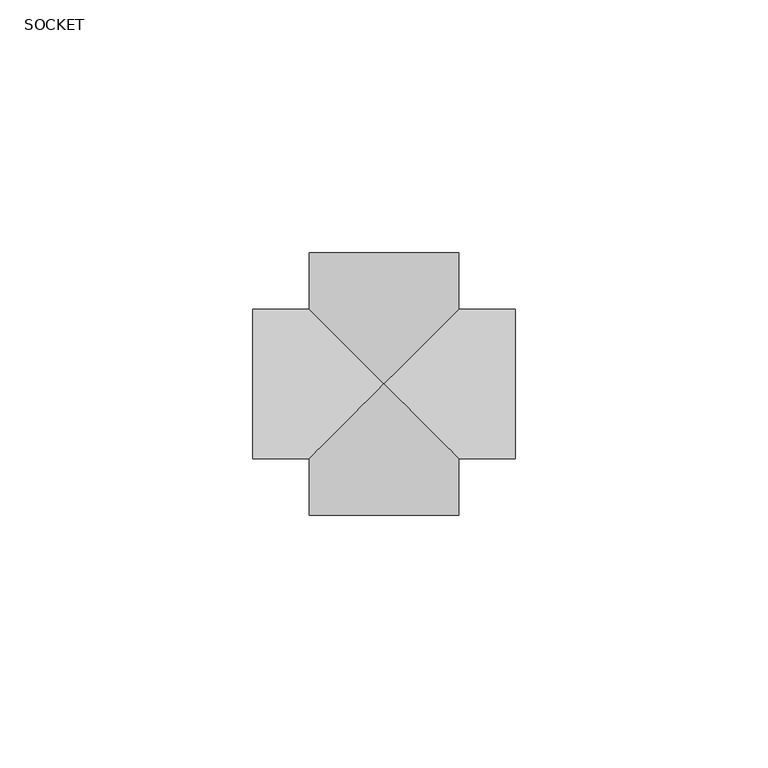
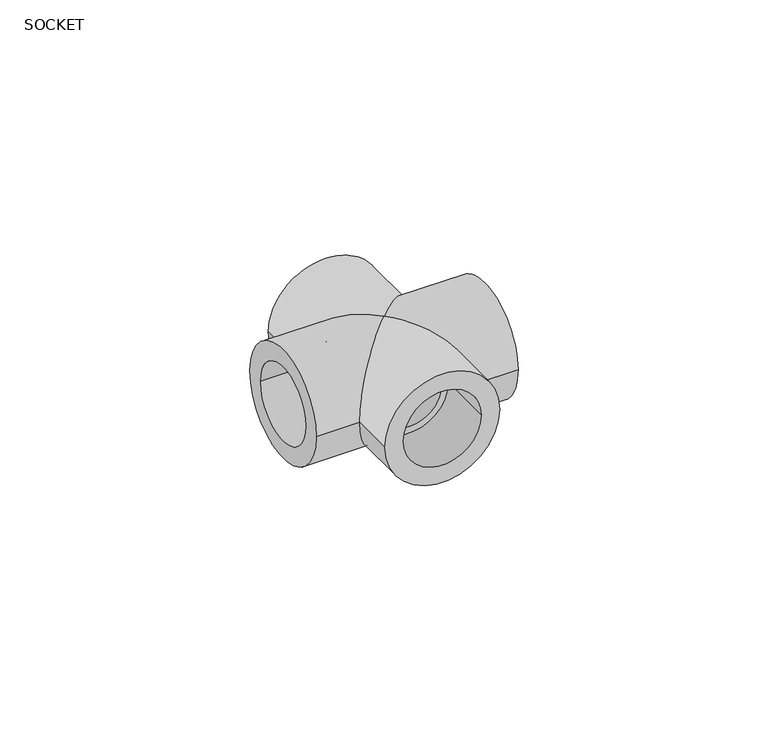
"""IFC4 building model written with IfcOpenShell, lengths in millimetres: pipe fitting geometry, Aquatherm - Cross Socket : SOCKET."""

import ifcopenshell
import ifcopenshell.guid

model = None  # the IFC model being written
_history = None  # IfcOwnerHistory: only IFC2X3 demands one
_inside = {}  # id of a spatial element -> (the spatial element, [elements in it])
_under = {}  # id of a project, library or spatial element -> (it, [spatial elements below it])
_declared = {}  # id of a project -> (the project, [libraries it declares])
_typed = {}  # id of a type object -> (the type object, [elements of that type])
_made_of = {}  # id of a material, layer set ... -> (it, [elements and type objects made of it])


def new_model(schema):
    """Start an empty IFC model of exactly this schema.

    Asked for "IFC4X3", IfcOpenShell would pick the latest addendum, in which some entities
    have other attributes; the version numbers below select the first issue.
    IFC2X3 requires an IfcOwnerHistory on every rooted entity: one is made here for all.
    """
    global model, _history
    if schema == "IFC4X3":
        model = ifcopenshell.file(schema_version=(4, 3, 0, 0))
    else:
        model = ifcopenshell.file(schema=schema)
    _inside.clear()
    _under.clear()
    _declared.clear()
    _typed.clear()
    _made_of.clear()
    _history = None
    if model.schema == "IFC2X3":
        org = make("IfcOrganization", Name="unknown")
        user = make(
            "IfcPersonAndOrganization",
            ThePerson=make("IfcPerson", FamilyName="unknown"),
            TheOrganization=org,
        )
        app = make(
            "IfcApplication",
            ApplicationDeveloper=org,
            Version="unknown",
            ApplicationFullName="unknown",
            ApplicationIdentifier="unknown",
        )
        _history = make(
            "IfcOwnerHistory",
            OwningUser=user,
            OwningApplication=app,
            ChangeAction="ADDED",
            CreationDate=0,
        )
    return model


def make(cls, **values):
    """One entity of the class cls with the attributes given. An attribute that is None is left unset."""
    return model.create_entity(
        cls, **{name: value for name, value in values.items() if value is not None}
    )


def rooted(cls, **values):
    """An entity with a GlobalId (a new one), such as an element, a storey or a relation."""
    return make(cls, GlobalId=ifcopenshell.guid.new(), OwnerHistory=_history, **values)


def si_unit(unit_type, name, prefix=None):
    """IfcSIUnit, for example si_unit("LENGTHUNIT", "METRE", prefix="MILLI")."""
    return make("IfcSIUnit", UnitType=unit_type, Prefix=prefix, Name=name)


def assignment(units):
    """IfcUnitAssignment: the units of a project."""
    return None if units is None else make("IfcUnitAssignment", Units=units)


def point(xyz):
    """IfcCartesianPoint."""
    return None if xyz is None else make("IfcCartesianPoint", Coordinates=xyz)


def direction(xyz):
    """IfcDirection."""
    return None if xyz is None else make("IfcDirection", DirectionRatios=xyz)


def frame(location, z_axis=None, x_axis=None):
    """IfcAxis2Placement3D, a coordinate frame: its origin and axes. An axis left out is left unset."""
    return make(
        "IfcAxis2Placement3D",
        Location=point(location),
        Axis=direction(z_axis),
        RefDirection=direction(x_axis),
    )


def origin():
    """The frame at (0, 0, 0) with its axes left unset."""
    return frame((0.0, 0.0, 0.0))


def place(relative_to, where):
    """IfcLocalPlacement: puts the frame where relative to a parent placement (None: the world)."""
    return make(
        "IfcLocalPlacement", PlacementRelTo=relative_to, RelativePlacement=where
    )


def context(
    kind, dimensions, precision=None, world=None, true_north=None, identifier=None
):
    """IfcGeometricRepresentationContext, for example the 3D "Model" context."""
    return make(
        "IfcGeometricRepresentationContext",
        ContextIdentifier=identifier,
        ContextType=kind,
        CoordinateSpaceDimension=dimensions,
        Precision=precision,
        WorldCoordinateSystem=world,
        TrueNorth=true_north,
    )


def project(units=None, contexts=None):
    """IfcProject with its units and contexts."""
    return rooted(
        "IfcProject",
        Name="project",
        RepresentationContexts=contexts,
        UnitsInContext=assignment(units),
    )


def spatial(cls, under=None, at=None, **own):
    """A site, building, storey or space (cls), placed at a placement, below another one or the project."""
    s = rooted(cls, ObjectPlacement=at, **own)
    if under is not None:
        _under.setdefault(under.id(), (under, []))[1].append(s)
    return s


def polyline(points):
    """IfcPolyline through the points."""
    return make("IfcPolyline", Points=[point(p) for p in points])


def circle_curve(where, radius):
    """IfcCircle in the frame where."""
    return make("IfcCircle", Position=where, Radius=radius)


def ellipse_curve(where, semi_axis1, semi_axis2):
    """IfcEllipse in the frame where."""
    return make(
        "IfcEllipse", Position=where, SemiAxis1=semi_axis1, SemiAxis2=semi_axis2
    )


def shape(context_of_items, identifier, shape_type, items):
    """IfcShapeRepresentation: the items that make up one representation, for example the "Body"."""
    return make(
        "IfcShapeRepresentation",
        ContextOfItems=context_of_items,
        RepresentationIdentifier=identifier,
        RepresentationType=shape_type,
        Items=items,
    )


def source(mapping_origin, context_of_items, identifier, shape_type, items):
    """IfcRepresentationMap: a shape defined once, which mapped items show again and again."""
    return make(
        "IfcRepresentationMap",
        MappingOrigin=mapping_origin,
        MappedRepresentation=shape(context_of_items, identifier, shape_type, items),
    )


def transform(
    local_origin,
    x_axis=None,
    y_axis=None,
    z_axis=None,
    scale=None,
    scale2=None,
    scale3=None,
    uniform=True,
):
    """IfcCartesianTransformationOperator3D, or its non-uniform kind. x_axis, y_axis, z_axis: its Axis1, 2, 3."""
    if uniform:
        return make(
            "IfcCartesianTransformationOperator3D",
            Axis1=direction(x_axis),
            Axis2=direction(y_axis),
            LocalOrigin=point(local_origin),
            Scale=scale,
            Axis3=direction(z_axis),
        )
    return make(
        "IfcCartesianTransformationOperator3DnonUniform",
        Axis1=direction(x_axis),
        Axis2=direction(y_axis),
        LocalOrigin=point(local_origin),
        Scale=scale,
        Axis3=direction(z_axis),
        Scale2=scale2,
        Scale3=scale3,
    )


def mapped(mapping_source, mapping_target):
    """IfcMappedItem: shows the shape of a source again, moved by a transform."""
    return make(
        "IfcMappedItem", MappingSource=mapping_source, MappingTarget=mapping_target
    )


def made_of(thing, what):
    """Note that an element or type object is made of a material, layer set ...; save() writes the relation."""
    if what is not None:
        _made_of.setdefault(what.id(), (what, []))[1].append(thing)
    return thing


def element(
    cls,
    number,
    at=None,
    inside=None,
    cuts=None,
    type_object=None,
    material=None,
    context=None,
    identifier="Body",
    shape_type=None,
    held_by="IfcProductDefinitionShape",
    body=None,
    shapes=None,
    **own,
):
    """One element of the class cls, such as IfcWall. Its Tag is "e" and its number.

    at: its placement. inside: the storey or other place that contains it. cuts: it is an
    opening in that element (IfcRelVoidsElement). A single representation is given by context,
    identifier, shape_type and body (its items); several are given by shapes. held_by: the class
    of the entity that holds the representations. save() writes the other relations.
    """
    e = rooted(cls, Tag="e%d" % number, ObjectPlacement=at, **own)
    if body is not None:
        shapes = [shape(context, identifier, shape_type, body)]
    if shapes is not None:
        e.Representation = make(held_by, Representations=shapes)
    if inside is not None:
        _inside.setdefault(inside.id(), (inside, []))[1].append(e)
    if cuts is not None:
        rooted(
            "IfcRelVoidsElement", RelatingBuildingElement=cuts, RelatedOpeningElement=e
        )
    if type_object is not None:
        _typed.setdefault(type_object.id(), (type_object, []))[1].append(e)
    return made_of(e, material)


def aggregate(whole, parts):
    """IfcRelAggregates: a whole, such as a stair, and the parts it consists of."""
    return rooted("IfcRelAggregates", RelatingObject=whole, RelatedObjects=parts)


def save(model, path):
    """Write the relations noted so far, then the file.

    IfcRelAggregates (storeys below a building ...), IfcRelContainedInSpatialStructure (elements
    in a storey), IfcRelDefinesByType, IfcRelAssociatesMaterial and IfcRelDeclares: one each for
    every whole, place, type object, material and project.
    """
    for whole, parts in _under.values():
        aggregate(whole, parts)
    for where, things in _inside.values():
        rooted(
            "IfcRelContainedInSpatialStructure",
            RelatedElements=things,
            RelatingStructure=where,
        )
    for kind, things in _typed.values():
        rooted("IfcRelDefinesByType", RelatedObjects=things, RelatingType=kind)
    for what, things in _made_of.values():
        rooted("IfcRelAssociatesMaterial", RelatedObjects=things, RelatingMaterial=what)
    for by, libraries in _declared.values():
        rooted("IfcRelDeclares", RelatingContext=by, RelatedDefinitions=libraries)
    model.write(path)


def plane_surface(at):
    """IfcPlane: the flat surface through the origin of the frame at, square to its z axis."""
    return make("IfcPlane", Position=at)


def cylinder_surface(at, radius):
    """IfcCylindricalSurface: all points at the distance radius from the z axis of the frame at."""
    return make("IfcCylindricalSurface", Position=at, Radius=radius)


def revolved_surface(curve, axis_point, axis_direction):
    """IfcSurfaceOfRevolution: the curve turned about the line through axis_point along axis_direction."""
    return make(
        "IfcSurfaceOfRevolution",
        SweptCurve=make("IfcArbitraryOpenProfileDef", ProfileType="CURVE", Curve=curve),
        AxisPosition=make("IfcAxis1Placement", Location=point(axis_point), Axis=direction(axis_direction)),
    )


def advanced_brep(points, edges, surfaces, faces):
    """IfcAdvancedBrep: a solid bounded by faces that lie on surfaces and meet in shared edges.

    An edge is (start, end): straight between two places in points (the first is 0);
    or (start, end, curve); or (start, end, curve, False) where it runs against its curve.
    A face is (place in surfaces, loops), or (place, loops, False) where it looks against
    its surface's normal. A loop lists edges by number (the first is 1), with a minus sign
    where the edge is run from its end to its start. The first loop is the outer one.
    """
    corners = [point(p) for p in points]
    vertices = [make("IfcVertexPoint", VertexGeometry=c) for c in corners]
    made = []
    for start, end, *more in edges:
        made.append(
            make(
                "IfcEdgeCurve",
                EdgeStart=vertices[start],
                EdgeEnd=vertices[end],
                EdgeGeometry=more[0] if more else make("IfcPolyline", Points=[corners[start], corners[end]]),
                SameSense=more[1] if len(more) > 1 else True,
            )
        )
    hull = []
    for where, loops, *sense in faces:
        bounds = []
        for j, loop in enumerate(loops):
            ring = [make("IfcOrientedEdge", EdgeElement=made[abs(k) - 1], Orientation=k > 0) for k in loop]
            bounds.append(
                make(
                    "IfcFaceOuterBound" if j == 0 else "IfcFaceBound",
                    Bound=make("IfcEdgeLoop", EdgeList=ring),
                    Orientation=True,
                )
            )
        hull.append(make("IfcAdvancedFace", Bounds=bounds, FaceSurface=surfaces[where], SameSense=sense[0] if sense else True))
    return make("IfcAdvancedBrep", Outer=make("IfcClosedShell", CfsFaces=hull))


def socket_ba2b1480(model_context):
    return source(origin(), model_context, "Body", "AdvancedBrep", [
        advanced_brep(
        [(-14.732, -25.908, 0.0), (14.732, -25.908, 0.0), (10.033, -25.908, 0.0), (-10.033, -25.908, 0.0), (-14.732, 25.908, 0.0), (14.732, 25.908, 0.0), (-10.033, 25.908, 0.0), (10.033, 25.908, 0.0), (-14.732, -14.732, 0.0), (0.0, 0.0, -14.732), (14.732, -14.732, 0.0), (14.732, 14.732, 0.0), (-14.732, 14.732, 0.0), (0.0, 0.0, 14.732), (25.908, -14.732, 0.0), (25.908, 14.732, 0.0), (25.908, 10.033, 0.0), (25.908, -10.033, 0.0), (-25.908, -14.732, 0.0), (-25.908, 14.732, 0.0), (-25.908, -10.033, 0.0), (-25.908, 10.033, 0.0), (-11.43, -10.033, 0.0), (-11.43, 10.033, 0.0), (11.43, -10.033, 0.0), (11.43, 10.033, 0.0), (11.43, 8.2088182, 0.0), (11.43, -8.2088182, 0.0), (8.2088182, 8.2088182, 0.0), (0.0, 0.0, -8.2088182), (8.2088182, -8.2088182, 0.0), (-11.43, 8.2088182, 0.0), (-11.43, -8.2088182, 0.0), (-8.2088182, -8.2088182, 0.0), (-8.2088182, 8.2088182, 0.0), (0.0, 0.0, 8.2088182), (-10.033, -11.43, 0.0), (10.033, -11.43, 0.0), (-10.033, 11.43, 0.0), (10.033, 11.43, 0.0), (-8.2088182, 11.43, 0.0), (8.2088182, 11.43, 0.0), (-8.2088182, -11.43, 0.0), (8.2088182, -11.43, 0.0)],
        [
            (0, 1, circle_curve(frame((0.0, -25.908, 0.0), z_axis=(0.0, -1.0, 0.0), x_axis=(1.0, 0.0, 0.0)), 14.732)),
            (1, 0, circle_curve(frame((0.0, -25.908, 0.0), z_axis=(0.0, -1.0, 0.0), x_axis=(1.0, 0.0, 0.0)), 14.732)),
            (2, 3, circle_curve(frame((0.0, -25.908, 0.0), z_axis=(0.0, 1.0, 0.0), x_axis=(1.0, 0.0, 0.0)), 10.033)),
            (3, 2, circle_curve(frame((0.0, -25.908, 0.0), z_axis=(0.0, 1.0, 0.0), x_axis=(1.0, 0.0, 0.0)), 10.033)),
            (4, 5, circle_curve(frame((0.0, 25.908, 0.0), z_axis=(0.0, 1.0, 0.0), x_axis=(1.0, 0.0, 0.0)), 14.732)),
            (5, 4, circle_curve(frame((0.0, 25.908, 0.0), z_axis=(0.0, 1.0, 0.0), x_axis=(1.0, 0.0, 0.0)), 14.732)),
            (6, 7, circle_curve(frame((0.0, 25.908, 0.0), z_axis=(0.0, -1.0, 0.0), x_axis=(1.0, 0.0, 0.0)), 10.033)),
            (7, 6, circle_curve(frame((0.0, 25.908, 0.0), z_axis=(0.0, -1.0, 0.0), x_axis=(1.0, 0.0, 0.0)), 10.033)),
            (0, 8),
            (8, 9, ellipse_curve(frame((0.0, 0.0, 0.0), z_axis=(0.7071067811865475, -0.7071067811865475, 0.0), x_axis=(-0.7071067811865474, -0.7071067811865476, 0.0)), 20.8341942, 14.732)),
            (9, 10, ellipse_curve(frame((0.0, 0.0, 0.0), z_axis=(-0.7071067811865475, -0.7071067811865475, 0.0), x_axis=(0.7071067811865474, -0.7071067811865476, 0.0)), 20.8341942, 14.732)),
            (10, 1),
            (5, 11),
            (11, 9, ellipse_curve(frame((0.0, 0.0, 0.0), z_axis=(-0.7071067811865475, 0.7071067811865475, 0.0), x_axis=(-0.7071067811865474, -0.7071067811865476, 0.0)), 20.8341942, 14.732)),
            (9, 12, ellipse_curve(frame((0.0, 0.0, 0.0), z_axis=(0.7071067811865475, 0.7071067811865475, 0.0), x_axis=(0.7071067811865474, -0.7071067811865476, 0.0)), 20.8341942, 14.732)),
            (12, 4),
            (10, 13, ellipse_curve(frame((0.0, 0.0, 0.0), z_axis=(-0.7071067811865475, -0.7071067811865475, 0.0), x_axis=(0.7071067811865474, -0.7071067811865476, 0.0)), 20.8341942, 14.732)),
            (13, 8, ellipse_curve(frame((0.0, 0.0, 0.0), z_axis=(0.7071067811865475, -0.7071067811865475, 0.0), x_axis=(-0.7071067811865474, -0.7071067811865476, 0.0)), 20.8341942, 14.732)),
            (12, 13, ellipse_curve(frame((0.0, 0.0, 0.0), z_axis=(0.7071067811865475, 0.7071067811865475, 0.0), x_axis=(0.7071067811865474, -0.7071067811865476, 0.0)), 20.8341942, 14.732)),
            (13, 11, ellipse_curve(frame((0.0, 0.0, 0.0), z_axis=(-0.7071067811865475, 0.7071067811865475, 0.0), x_axis=(-0.7071067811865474, -0.7071067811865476, 0.0)), 20.8341942, 14.732)),
            (14, 15, circle_curve(frame((25.908, 0.0, 0.0), z_axis=(1.0, 0.0, 0.0), x_axis=(0.0, 1.0, 0.0)), 14.732)),
            (15, 14, circle_curve(frame((25.908, 0.0, 0.0), z_axis=(1.0, 0.0, 0.0), x_axis=(0.0, 1.0, 0.0)), 14.732)),
            (16, 17, circle_curve(frame((25.908, 0.0, 0.0), z_axis=(-1.0, 0.0, 0.0), x_axis=(0.0, 1.0, 0.0)), 10.033)),
            (17, 16, circle_curve(frame((25.908, 0.0, 0.0), z_axis=(-1.0, 0.0, 0.0), x_axis=(0.0, 1.0, 0.0)), 10.033)),
            (18, 19, circle_curve(frame((-25.908, 0.0, 0.0), z_axis=(-1.0, 0.0, 0.0), x_axis=(0.0, 1.0, 0.0)), 14.732)),
            (19, 18, circle_curve(frame((-25.908, 0.0, 0.0), z_axis=(-1.0, 0.0, 0.0), x_axis=(0.0, 1.0, 0.0)), 14.732)),
            (20, 21, circle_curve(frame((-25.908, 0.0, 0.0), z_axis=(1.0, 0.0, 0.0), x_axis=(0.0, 1.0, 0.0)), 10.033)),
            (21, 20, circle_curve(frame((-25.908, 0.0, 0.0), z_axis=(1.0, 0.0, 0.0), x_axis=(0.0, 1.0, 0.0)), 10.033)),
            (14, 10),
            (11, 15),
            (19, 12),
            (8, 18),
            (20, 22),
            (22, 23, circle_curve(frame((-11.43, 0.0, 0.0), z_axis=(1.0, 0.0, 0.0), x_axis=(0.0, 1.0, 0.0)), 10.033)),
            (23, 21),
            (23, 22, circle_curve(frame((-11.43, 0.0, 0.0), z_axis=(1.0, 0.0, 0.0), x_axis=(0.0, 1.0, 0.0)), 10.033)),
            (24, 17),
            (16, 25),
            (25, 24, circle_curve(frame((11.43, 0.0, 0.0), z_axis=(-1.0, 0.0, 0.0), x_axis=(0.0, 1.0, 0.0)), 10.033)),
            (24, 25, circle_curve(frame((11.43, 0.0, 0.0), z_axis=(-1.0, 0.0, 0.0), x_axis=(0.0, 1.0, 0.0)), 10.033)),
            (25, 26),
            (26, 27, circle_curve(frame((11.43, 0.0, 0.0), z_axis=(-1.0, 0.0, 0.0), x_axis=(0.0, 1.0, 0.0)), 8.2088182)),
            (27, 24),
            (27, 26, circle_curve(frame((11.43, 0.0, 0.0), z_axis=(-1.0, 0.0, 0.0), x_axis=(0.0, 1.0, 0.0)), 8.2088182)),
            (26, 28),
            (28, 29, ellipse_curve(frame((0.0, 0.0, 0.0), z_axis=(-0.7071067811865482, 0.7071067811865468, 0.0), x_axis=(-0.7071067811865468, -0.7071067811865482, 0.0)), 11.609022, 8.2088182)),
            (29, 30, ellipse_curve(frame((0.0, 0.0, 0.0), z_axis=(-0.7071067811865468, -0.7071067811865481, 0.0), x_axis=(-0.7071067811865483, 0.7071067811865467, 0.0)), 11.609022, 8.2088182)),
            (30, 27),
            (31, 32, circle_curve(frame((-11.43, 0.0, 0.0), z_axis=(-1.0, 0.0, 0.0), x_axis=(0.0, 1.0, 0.0)), 8.2088182)),
            (32, 33),
            (33, 29, ellipse_curve(frame((0.0, 0.0, 0.0), z_axis=(0.7071067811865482, -0.7071067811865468, 0.0), x_axis=(-0.7071067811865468, -0.7071067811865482, 0.0)), 11.609022, 8.2088182)),
            (29, 34, ellipse_curve(frame((0.0, 0.0, 0.0), z_axis=(0.7071067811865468, 0.7071067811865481, 0.0), x_axis=(-0.7071067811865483, 0.7071067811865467, 0.0)), 11.609022, 8.2088182)),
            (34, 31),
            (30, 35, ellipse_curve(frame((0.0, 0.0, 0.0), z_axis=(-0.7071067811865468, -0.7071067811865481, 0.0), x_axis=(-0.7071067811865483, 0.7071067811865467, 0.0)), 11.609022, 8.2088182)),
            (35, 28, ellipse_curve(frame((0.0, 0.0, 0.0), z_axis=(-0.7071067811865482, 0.7071067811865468, 0.0), x_axis=(-0.7071067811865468, -0.7071067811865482, 0.0)), 11.609022, 8.2088182)),
            (32, 31, circle_curve(frame((-11.43, 0.0, 0.0), z_axis=(-1.0, 0.0, 0.0), x_axis=(0.0, 1.0, 0.0)), 8.2088182)),
            (34, 35, ellipse_curve(frame((0.0, 0.0, 0.0), z_axis=(0.7071067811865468, 0.7071067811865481, 0.0), x_axis=(-0.7071067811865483, 0.7071067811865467, 0.0)), 11.609022, 8.2088182)),
            (35, 33, ellipse_curve(frame((0.0, 0.0, 0.0), z_axis=(0.7071067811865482, -0.7071067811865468, 0.0), x_axis=(-0.7071067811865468, -0.7071067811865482, 0.0)), 11.609022, 8.2088182)),
            (22, 32),
            (31, 23),
            (36, 3),
            (2, 37),
            (37, 36, circle_curve(frame((0.0, -11.43, 0.0), z_axis=(0.0, 1.0, 0.0), x_axis=(1.0, 0.0, 0.0)), 10.033)),
            (36, 37, circle_curve(frame((0.0, -11.43, 0.0), z_axis=(0.0, 1.0, 0.0), x_axis=(1.0, 0.0, 0.0)), 10.033)),
            (6, 38),
            (38, 39, circle_curve(frame((0.0, 11.43, 0.0), z_axis=(0.0, -1.0, 0.0), x_axis=(1.0, 0.0, 0.0)), 10.033)),
            (39, 7),
            (39, 38, circle_curve(frame((0.0, 11.43, 0.0), z_axis=(0.0, -1.0, 0.0), x_axis=(1.0, 0.0, 0.0)), 10.033)),
            (38, 40),
            (40, 41, circle_curve(frame((0.0, 11.43, 0.0), z_axis=(0.0, -1.0, 0.0), x_axis=(1.0, 0.0, 0.0)), 8.2088182)),
            (41, 39),
            (41, 40, circle_curve(frame((0.0, 11.43, 0.0), z_axis=(0.0, -1.0, 0.0), x_axis=(1.0, 0.0, 0.0)), 8.2088182)),
            (40, 34),
            (28, 41),
            (42, 43, circle_curve(frame((0.0, -11.43, 0.0), z_axis=(0.0, -1.0, 0.0), x_axis=(1.0, 0.0, 0.0)), 8.2088182)),
            (43, 30),
            (33, 42),
            (43, 42, circle_curve(frame((0.0, -11.43, 0.0), z_axis=(0.0, -1.0, 0.0), x_axis=(1.0, 0.0, 0.0)), 8.2088182)),
            (37, 43),
            (42, 36),
        ],
        [
            plane_surface(frame((14.732, -25.908, 0.0), z_axis=(0.0, -1.0, 0.0), x_axis=(0.0, 0.0, 1.0))),
            plane_surface(frame((14.732, 25.908, 0.0), z_axis=(0.0, 1.0, 0.0), x_axis=(0.0, 0.0, -1.0))),
            cylinder_surface(frame((0.0, 25.908, 0.0), z_axis=(0.0, -1.0, 0.0), x_axis=(1.0, 0.0, 0.0)), 14.732),
            plane_surface(frame((25.908, 14.732, 0.0), z_axis=(1.0, 0.0, 0.0), x_axis=(0.0, 0.0, 1.0))),
            plane_surface(frame((-25.908, 14.732, 0.0), z_axis=(-1.0, 0.0, 0.0), x_axis=(0.0, 0.0, -1.0))),
            cylinder_surface(frame((-25.908, 0.0, 0.0), z_axis=(1.0, 0.0, 0.0), x_axis=(0.0, 1.0, 0.0)), 14.732),
            revolved_surface(polyline([(-25.908, 10.033, 0.0), (-11.43, 10.033, 0.0)]), (-40.6659939, 0.0, 0.0), (-1.0, 0.0, 0.0)),
            revolved_surface(polyline([(11.43, 10.033, 0.0), (25.90800000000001, 10.033, 0.0)]), (-40.6659939, 0.0, 0.0), (-1.0, 0.0, 0.0)),
            plane_surface(frame((11.43, 0.0, 0.0), z_axis=(1.0, 0.0, 0.0), x_axis=(0.0, 1.0, 0.0))),
            revolved_surface(polyline([(-8.208818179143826, 8.2088182, 0.0), (11.43, 8.2088182, 0.0)]), (-40.6659939, 0.0, 0.0), (-1.0, 0.0, 0.0)),
            revolved_surface(polyline([(-11.43, 8.2088182, 0.0), (8.208818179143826, 8.2088182, 0.0)]), (-40.6659939, 0.0, 0.0), (-1.0, 0.0, 0.0)),
            plane_surface(frame((-11.43, 0.0, 0.0), z_axis=(-1.0, 0.0, 0.0), x_axis=(0.0, 1.0, 0.0))),
            revolved_surface(polyline([(10.033, -11.43, 0.0), (10.033, -25.908, 0.0)]), (0.0, -40.6659939, 0.0), (0.0, 1.0, 0.0)),
            revolved_surface(polyline([(10.033, 25.90800000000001, 0.0), (10.033, 11.43, 0.0)]), (0.0, -40.6659939, 0.0), (0.0, 1.0, 0.0)),
            plane_surface(frame((0.0, 11.43, 0.0), z_axis=(0.0, 1.0, 0.0), x_axis=(1.0, 0.0, 0.0))),
            revolved_surface(polyline([(8.2088182, 11.43, 0.0), (8.2088182, -8.208818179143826, 0.0)]), (0.0, -40.6659939, 0.0), (0.0, 1.0, 0.0)),
            revolved_surface(polyline([(8.2088182, 8.208818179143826, 0.0), (8.2088182, -11.43, 0.0)]), (0.0, -40.6659939, 0.0), (0.0, 1.0, 0.0)),
            plane_surface(frame((0.0, -11.43, 0.0), z_axis=(0.0, -1.0, 0.0), x_axis=(1.0, 0.0, 0.0))),
        ],
        [
            (0, [[1, 2], [3, 4]]),
            (1, [[5, 6], [7, 8]]),
            (2, [[-1, 9, 10, 11, 12]]),
            (2, [[-6, 13, 14, 15, 16]]),
            (2, [[-2, -12, 17, 18, -9]]),
            (2, [[-5, -16, 19, 20, -13]]),
            (3, [[21, 22], [23, 24]]),
            (4, [[25, 26], [27, 28]]),
            (5, [[-21, 29, -11, -14, 30]]),
            (5, [[-26, 31, -15, -10, 32]]),
            (5, [[-22, -30, -20, -17, -29]]),
            (5, [[-25, -32, -18, -19, -31]]),
            (6, [[33, 34, 35, -27]]),
            (6, [[-33, -28, -35, 36]]),
            (7, [[37, -23, 38, 39]]),
            (7, [[-37, 40, -38, -24]]),
            (8, [[-39, 41, 42, 43]]),
            (8, [[-40, -43, 44, -41]]),
            (9, [[-42, 45, 46, 47, 48]]),
            (10, [[49, 50, 51, 52, 53]]),
            (9, [[-44, -48, 54, 55, -45]]),
            (10, [[56, -53, 57, 58, -50]]),
            (11, [[-34, 59, -49, 60]]),
            (11, [[-36, -60, -56, -59]]),
            (12, [[61, -3, 62, 63]]),
            (12, [[-61, 64, -62, -4]]),
            (13, [[65, 66, 67, -7]]),
            (13, [[-65, -8, -67, 68]]),
            (14, [[-66, 69, 70, 71]]),
            (14, [[-68, -71, 72, -69]]),
            (15, [[-70, 73, -52, -46, 74]]),
            (16, [[75, 76, -47, -51, 77]]),
            (15, [[-72, -74, -55, -57, -73]]),
            (16, [[78, -77, -58, -54, -76]]),
            (17, [[-63, 79, -75, 80]]),
            (17, [[-64, -80, -78, -79]]),
        ],
    ),
    ])


if __name__ == "__main__":
    model = new_model("IFC4")
    model_context = context("Model", 3, world=origin())
    ifc_project = project(units=[si_unit("LENGTHUNIT", "METRE", prefix="MILLI")], contexts=[model_context])
    site = spatial("IfcSite", under=ifc_project)
    building = spatial("IfcBuilding", under=site)
    placement = place(None, origin())
    ifc_socket_shape = socket_ba2b1480(model_context)
    element("IfcPipeFitting", 1, ObjectType="Aquatherm - Cross Socket : SOCKET", at=placement, inside=building, context=model_context, shape_type="MappedRepresentation", body=[
        mapped(ifc_socket_shape, transform((0.0, 0.0, 0.0), x_axis=(1.0, 0.0, 0.0), y_axis=(0.0, 1.0, 0.0), z_axis=(0.0, 0.0, 1.0))),
    ])
    save(model, "model.ifc")
